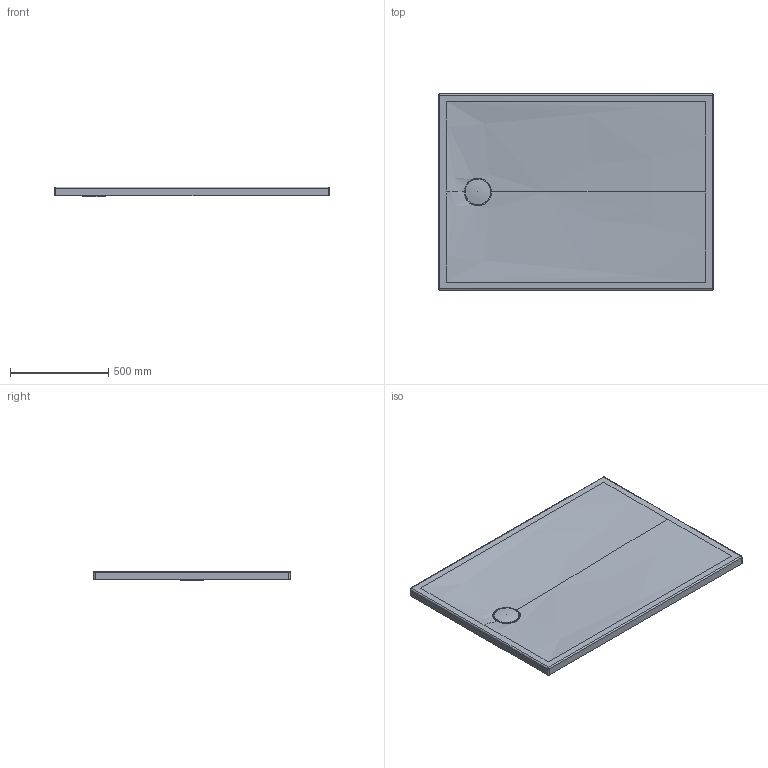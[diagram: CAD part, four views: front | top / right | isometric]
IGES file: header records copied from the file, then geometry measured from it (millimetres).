
Global section: file name: D:\01_Planungsdaten\_news19\W&W\Tempano\720203\3D\720203.igs; native system: Rhinoceros ( Sep 13 2016 ); preprocessor: Trout Lake IGES 012 Sep 13 2016; date: 190305.081626; units: millimetre
Bounding box: 1400 x 1000 x 50.23 mm (x, y, z)
Surface area: 1657490.3 mm2 (no closed solid volume)
Topology: 0 solids, 0 shells, 34 faces, 254 edges, 249 vertices
Faces by surface type: bspline 34
